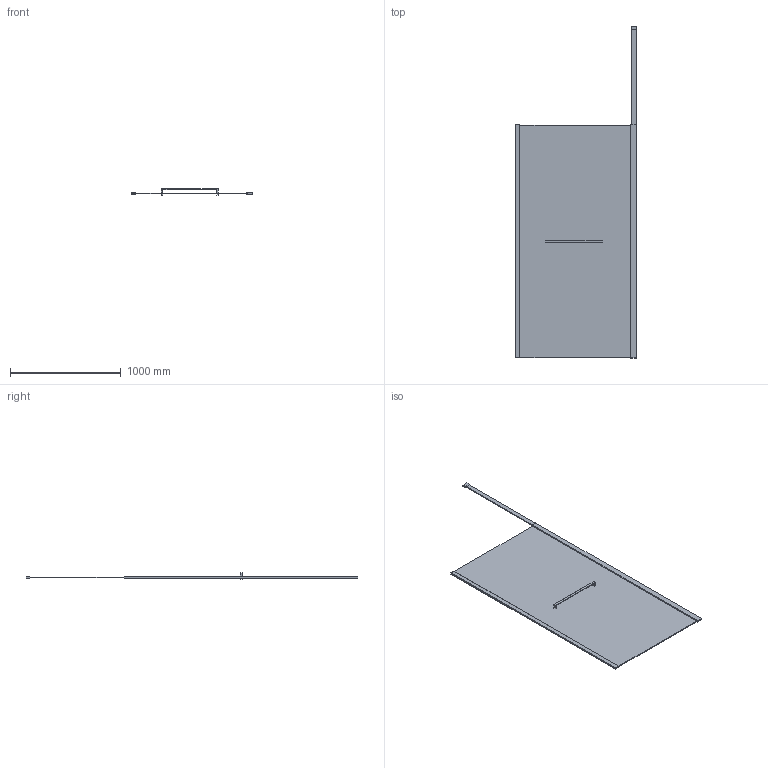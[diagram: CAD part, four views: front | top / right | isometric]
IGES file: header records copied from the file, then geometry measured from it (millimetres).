
Start section: SolidWorks IGES file using analytic representation for surfaces
Global section: file name: D:\Users\M.Szymanski\Desktop\Kabiny\PI_ALTIIa\PI_ALTIIa_110_wspornik pionowy_K3D.IGS; native system: SolidWorks 2011; preprocessor: SolidWorks 2011; author: M.Szymanski; date: 181002.135824; units: millimetre
Bounding box: 1099.9 x 3000 x 54.5 mm (x, y, z)
Surface area: 5262424.2 mm2 (no closed solid volume)
Topology: 0 solids, 0 shells, 49 faces, 324 edges, 432 vertices
Faces by surface type: bspline 49
